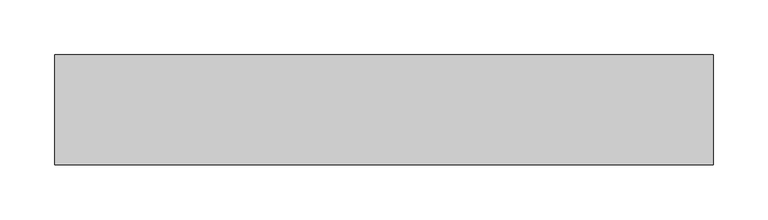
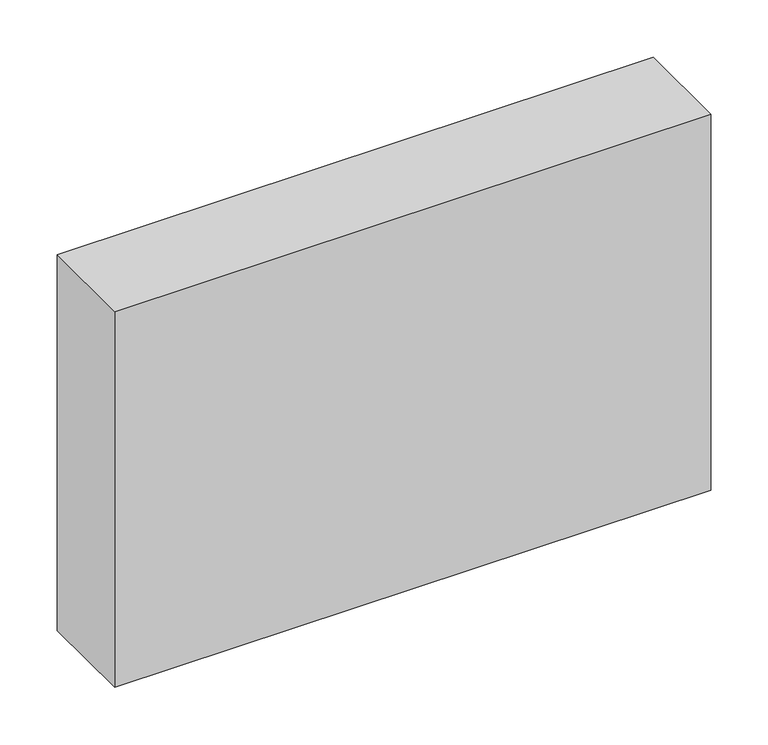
"""IFC4 building model written with IfcOpenShell, lengths in millimetres: proxy geometry, Módulo de Vedação de Concreto Celular - Celucon : MVCC 10x40x60cm (L x A x C)."""

from ifc_helpers import new_model, si_unit, origin, origin_with_axes, place, context, project, spatial, polyline, outline, extrude, source, transform, mapped, element, save


def generic_models_d6f11422(model_context):
    return source(origin(), model_context, "Body", "SweptSolid", [
        extrude(outline(polyline([(300.0, 50.0), (300.0, -50.0), (-300.0, -50.0), (-300.0, 50.0), (300.0, 50.0)])), origin_with_axes(), (0.0, 0.0, 1.0), 400.0),
    ])


if __name__ == "__main__":
    model = new_model("IFC4")
    model_context = context("Model", 3, world=origin())
    ifc_project = project(units=[si_unit("LENGTHUNIT", "METRE", prefix="MILLI")], contexts=[model_context])
    site = spatial("IfcSite", under=ifc_project)
    building = spatial("IfcBuilding", under=site)
    placement = place(None, origin())
    generic_models_shape = generic_models_d6f11422(model_context)
    element("IfcBuildingElementProxy", 1, Name="Módulo de Vedação de Concreto Celular - Celucon : MVCC 10x40x60cm (L x A x C)", ObjectType="Módulo de Vedação de Concreto Celular - Celucon : MVCC 10x40x60cm (L x A x C)", at=placement, inside=building, context=model_context, shape_type="MappedRepresentation", body=[
        mapped(generic_models_shape, transform((0.0, 0.0, 0.0), x_axis=(1.0, 0.0, 0.0), y_axis=(0.0, 1.0, 0.0), z_axis=(0.0, 0.0, 1.0))),
    ])
    save(model, "model.ifc")
